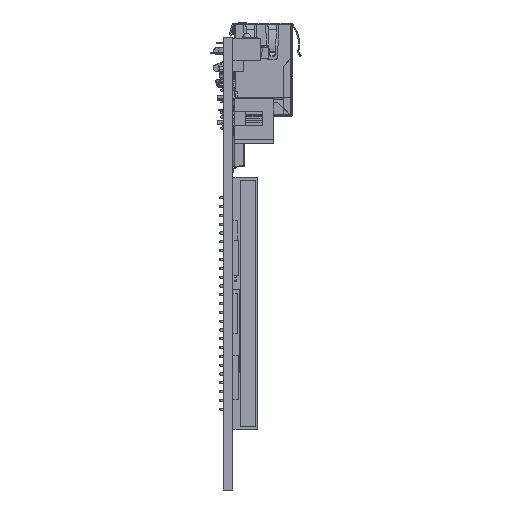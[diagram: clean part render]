
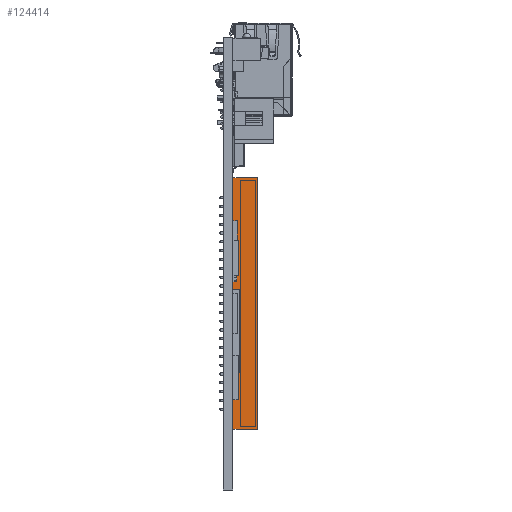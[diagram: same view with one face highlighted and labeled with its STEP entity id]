
A CAD part, front view. The second image highlights one B-rep face of the part: STEP entity #124414.
In plain terms, the highlighted planar face has unit normal (0, -1, 0).
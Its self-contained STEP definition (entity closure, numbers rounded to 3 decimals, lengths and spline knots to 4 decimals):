
#1717=DIRECTION('',(0.,0.,-1.));
#1718=VECTOR('',#1717,2.252);
#1719=CARTESIAN_POINT('',(0.085,5.3334,2.6179));
#1720=LINE('',#1719,#1718);
#41631=DIRECTION('',(-1.,0.,0.));
#41632=VECTOR('',#41631,0.2224);
#41633=CARTESIAN_POINT('',(0.3074,5.3334,
2.6179));
#41634=LINE('',#41633,#41632);
#41647=DIRECTION('',(-1.,0.,0.));
#41648=VECTOR('',#41647,0.2224);
#41649=CARTESIAN_POINT('',(0.3074,5.3334,
0.3659));
#41650=LINE('',#41649,#41648);
#41659=DIRECTION('',(0.,0.,-1.));
#41660=VECTOR('',#41659,2.252);
#41661=CARTESIAN_POINT('',(0.3074,5.3334,
2.6179));
#41662=LINE('',#41661,#41660);
#58229=CARTESIAN_POINT('',(0.3074,5.3334,
2.6179));
#58230=VERTEX_POINT('',#58229);
#58231=CARTESIAN_POINT('',(0.3074,5.3334,
0.3659));
#58232=VERTEX_POINT('',#58231);
#60659=CARTESIAN_POINT('',(0.085,5.3334,2.6179));
#60660=CARTESIAN_POINT('',(0.085,5.3334,0.3659));
#60661=VERTEX_POINT('',#60659);
#60662=VERTEX_POINT('',#60660);
#124400=CARTESIAN_POINT('',(0.085,5.3334,1.4919));
#124401=DIRECTION('',(0.,-1.,0.));
#124402=DIRECTION('',(-1.,0.,0.));
#124403=AXIS2_PLACEMENT_3D('',#124400,#124401,#124402);
#124404=PLANE('',#124403);
#124405=ORIENTED_EDGE('',*,*,#66488,.F.);
#124407=ORIENTED_EDGE('',*,*,#124406,.F.);
#124409=ORIENTED_EDGE('',*,*,#124408,.T.);
#124411=ORIENTED_EDGE('',*,*,#124410,.T.);
#124412=EDGE_LOOP('',(#124405,#124407,#124409,#124411));
#124413=FACE_OUTER_BOUND('',#124412,.F.);
#124414=ADVANCED_FACE('',(#124413),#124404,.T.);
#66488=EDGE_CURVE('',#60661,#60662,#1720,.T.);
#124406=EDGE_CURVE('',#58230,#60661,#41634,.T.);
#124408=EDGE_CURVE('',#58230,#58232,#41662,.T.);
#124410=EDGE_CURVE('',#58232,#60662,#41650,.T.);
